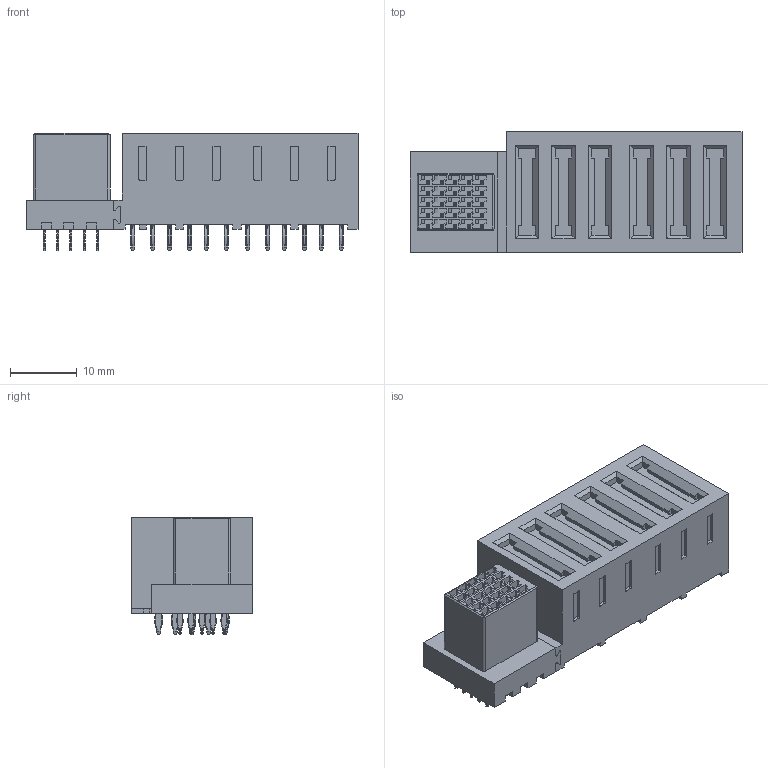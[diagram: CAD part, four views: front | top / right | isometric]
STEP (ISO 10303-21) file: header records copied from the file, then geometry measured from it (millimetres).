
FILE_DESCRIPTION (( 'STEP AP214' ), '1' );
FILE_NAME ('9397-2P06S25B7PAA01.STEP', '2022-02-18T07:07:11', ( '' ), ( '' ), 'SwSTEP 2.0', 'SolidWorks 2011', '' );
FILE_SCHEMA (( 'AUTOMOTIVE_DESIGN' ));
Length unit declared in the file: millimetre
Products named in the file (1): 9397-2P06S25B7PAA01
Bounding box: 49.68 x 18 x 17.58 mm (x, y, z)
Volume: 10450.5 mm3; surface area: 5243.5 mm2
Topology: 2 solids, 2 shells, 4016 faces, 10139 edges, 6265 vertices
Faces by surface type: plane 1537, cylinder 1315, torus 1160, cone 4
Entity records: 165200 total; most frequent: CARTESIAN_POINT 24321, DIRECTION 21348, ORIENTED_EDGE 20278, EDGE_CURVE 10139, AXIS2_PLACEMENT_3D 8132, VERTEX_POINT 6265, LINE 5084, VECTOR 5084
